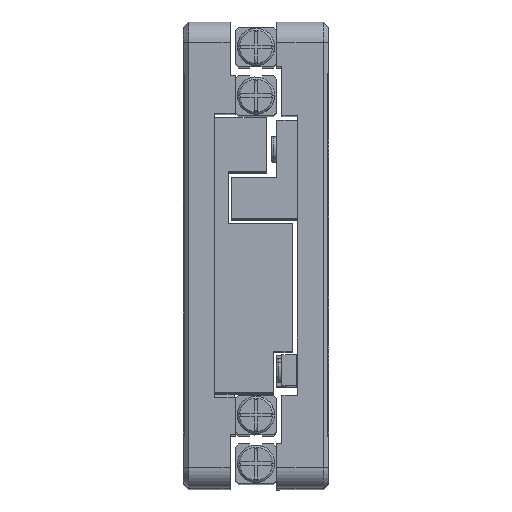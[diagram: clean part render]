
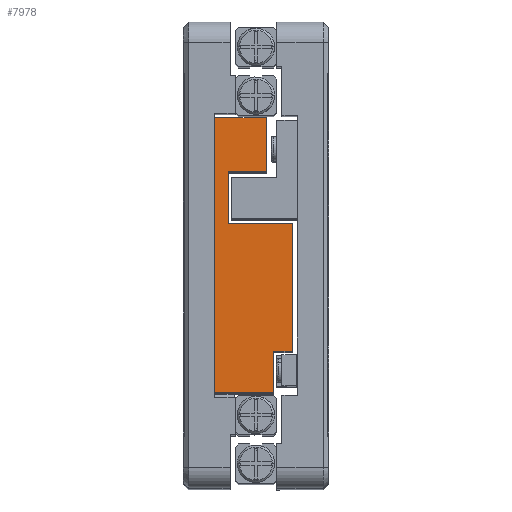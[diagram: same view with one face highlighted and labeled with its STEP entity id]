
A CAD part, top view. The second image highlights one B-rep face of the part: STEP entity #7978.
In plain terms, the highlighted planar face has unit normal (0, 0, 1) as drawn and (0, -1, 0) by its records, which use the part's own axes.
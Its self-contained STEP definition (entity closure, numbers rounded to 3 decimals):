
#653 = LINE ( 'NONE', #8300, #2778 ) ;
#939 = EDGE_CURVE ( 'NONE', #27825, #17852, #14264, .T. ) ;
#1261 = ORIENTED_EDGE ( 'NONE', *, *, #22801, .F. ) ;
#1495 = DIRECTION ( 'NONE',  ( -1., 0., 0. ) ) ;
#1584 = EDGE_CURVE ( 'NONE', #3770, #9118, #21820, .T. ) ;
#1769 = DIRECTION ( 'NONE',  ( 0., 0., -1. ) ) ;
#2040 = LINE ( 'NONE', #25246, #13976 ) ;
#2778 = VECTOR ( 'NONE', #3035, 1000. ) ;
#2834 = LINE ( 'NONE', #34251, #25023 ) ;
#3035 = DIRECTION ( 'NONE',  ( 0., 0., 1. ) ) ;
#3210 = CARTESIAN_POINT ( 'NONE',  ( 7.234, 0., -4.144 ) ) ;
#3770 = VERTEX_POINT ( 'NONE', #3210 ) ;
#4319 = VERTEX_POINT ( 'NONE', #31500 ) ;
#4350 = VERTEX_POINT ( 'NONE', #23449 ) ;
#4867 = VECTOR ( 'NONE', #27491, 1000. ) ;
#5145 = DIRECTION ( 'NONE',  ( 0., 0., 1. ) ) ;
#5235 = ORIENTED_EDGE ( 'NONE', *, *, #34280, .F. ) ;
#7164 = DIRECTION ( 'NONE',  ( 0., 0., -1. ) ) ;
#7304 = VECTOR ( 'NONE', #7164, 1000. ) ;
#7978 = ADVANCED_FACE ( 'NONE', ( #31473 ), #29945, .F. ) ;
#8300 = CARTESIAN_POINT ( 'NONE',  ( 12.234, 0., -7.844 ) ) ;
#8861 = EDGE_LOOP ( 'NONE', ( #32825, #33054, #1261, #32552, #13585, #23021, #11203, #33562, #12752, #5235 ) ) ;
#9118 = VERTEX_POINT ( 'NONE', #32616 ) ;
#9467 = CARTESIAN_POINT ( 'NONE',  ( 12.234, 0., -4.144 ) ) ;
#11203 = ORIENTED_EDGE ( 'NONE', *, *, #22440, .F. ) ;
#11706 = VECTOR ( 'NONE', #33887, 1000. ) ;
#12128 = LINE ( 'NONE', #9467, #11706 ) ;
#12752 = ORIENTED_EDGE ( 'NONE', *, *, #29893, .F. ) ;
#13098 = VECTOR ( 'NONE', #33348, 1000. ) ;
#13395 = VERTEX_POINT ( 'NONE', #27219 ) ;
#13585 = ORIENTED_EDGE ( 'NONE', *, *, #1584, .F. ) ;
#13976 = VECTOR ( 'NONE', #17485, 1000. ) ;
#14264 = LINE ( 'NONE', #16248, #4867 ) ;
#15221 = EDGE_CURVE ( 'NONE', #4319, #27825, #2834, .T. ) ;
#16248 = CARTESIAN_POINT ( 'NONE',  ( -9.066, 0., -10.344 ) ) ;
#16257 = VERTEX_POINT ( 'NONE', #24233 ) ;
#16683 = VECTOR ( 'NONE', #1769, 1000. ) ;
#17485 = DIRECTION ( 'NONE',  ( 1., 0., 0. ) ) ;
#17586 = VECTOR ( 'NONE', #22993, 1000. ) ;
#17852 = VERTEX_POINT ( 'NONE', #30243 ) ;
#18147 = VECTOR ( 'NONE', #5145, 1000. ) ;
#18810 = CARTESIAN_POINT ( 'NONE',  ( -5.066, 0., -10.344 ) ) ;
#19298 = CARTESIAN_POINT ( 'NONE',  ( 17.434, 0., -2.844 ) ) ;
#21820 = LINE ( 'NONE', #23758, #7304 ) ;
#22440 = EDGE_CURVE ( 'NONE', #16257, #29739, #653, .T. ) ;
#22661 = AXIS2_PLACEMENT_3D ( 'NONE', #30168, #27054, #32693 ) ;
#22672 = EDGE_CURVE ( 'NONE', #29739, #3770, #12128, .T. ) ;
#22801 = EDGE_CURVE ( 'NONE', #13395, #4319, #34843, .T. ) ;
#22993 = DIRECTION ( 'NONE',  ( -1., 0., 0. ) ) ;
#23021 = ORIENTED_EDGE ( 'NONE', *, *, #22672, .F. ) ;
#23449 = CARTESIAN_POINT ( 'NONE',  ( 17.434, 0., -7.844 ) ) ;
#23758 = CARTESIAN_POINT ( 'NONE',  ( 7.234, 0., -4.144 ) ) ;
#24233 = CARTESIAN_POINT ( 'NONE',  ( 12.234, 0., -7.844 ) ) ;
#25019 = CARTESIAN_POINT ( 'NONE',  ( 17.434, 0., -7.844 ) ) ;
#25023 = VECTOR ( 'NONE', #1495, 1000. ) ;
#25246 = CARTESIAN_POINT ( 'NONE',  ( -9.066, 0., -2.844 ) ) ;
#25263 = CARTESIAN_POINT ( 'NONE',  ( 12.234, 0., -4.144 ) ) ;
#26165 = CARTESIAN_POINT ( 'NONE',  ( -9.066, 0., -8.544 ) ) ;
#27054 = DIRECTION ( 'NONE',  ( 0., 1., 0. ) ) ;
#27219 = CARTESIAN_POINT ( 'NONE',  ( -5.066, 0., -10.344 ) ) ;
#27491 = DIRECTION ( 'NONE',  ( 0., 0., 1. ) ) ;
#27825 = VERTEX_POINT ( 'NONE', #26165 ) ;
#29011 = CARTESIAN_POINT ( 'NONE',  ( 17.434, 0., -10.344 ) ) ;
#29739 = VERTEX_POINT ( 'NONE', #25263 ) ;
#29799 = EDGE_CURVE ( 'NONE', #9118, #13395, #33453, .T. ) ;
#29893 = EDGE_CURVE ( 'NONE', #34131, #4350, #34718, .T. ) ;
#29945 = PLANE ( 'NONE',  #22661 ) ;
#30168 = CARTESIAN_POINT ( 'NONE',  ( 0., 0., 0. ) ) ;
#30243 = CARTESIAN_POINT ( 'NONE',  ( -9.066, 0., -2.844 ) ) ;
#31169 = CARTESIAN_POINT ( 'NONE',  ( -9.066, 0., -10.344 ) ) ;
#31473 = FACE_OUTER_BOUND ( 'NONE', #8861, .T. ) ;
#31500 = CARTESIAN_POINT ( 'NONE',  ( -5.066, 0., -8.544 ) ) ;
#31651 = EDGE_CURVE ( 'NONE', #4350, #16257, #33232, .T. ) ;
#32552 = ORIENTED_EDGE ( 'NONE', *, *, #29799, .F. ) ;
#32616 = CARTESIAN_POINT ( 'NONE',  ( 7.234, 0., -10.344 ) ) ;
#32693 = DIRECTION ( 'NONE',  ( 0., 0., 1. ) ) ;
#32825 = ORIENTED_EDGE ( 'NONE', *, *, #939, .F. ) ;
#33054 = ORIENTED_EDGE ( 'NONE', *, *, #15221, .F. ) ;
#33232 = LINE ( 'NONE', #25019, #13098 ) ;
#33348 = DIRECTION ( 'NONE',  ( -1., 0., 0. ) ) ;
#33453 = LINE ( 'NONE', #31169, #17586 ) ;
#33562 = ORIENTED_EDGE ( 'NONE', *, *, #31651, .F. ) ;
#33887 = DIRECTION ( 'NONE',  ( -1., 0., 0. ) ) ;
#34131 = VERTEX_POINT ( 'NONE', #19298 ) ;
#34251 = CARTESIAN_POINT ( 'NONE',  ( -9.066, 0., -8.544 ) ) ;
#34280 = EDGE_CURVE ( 'NONE', #17852, #34131, #2040, .T. ) ;
#34718 = LINE ( 'NONE', #29011, #16683 ) ;
#34843 = LINE ( 'NONE', #18810, #18147 ) ;
